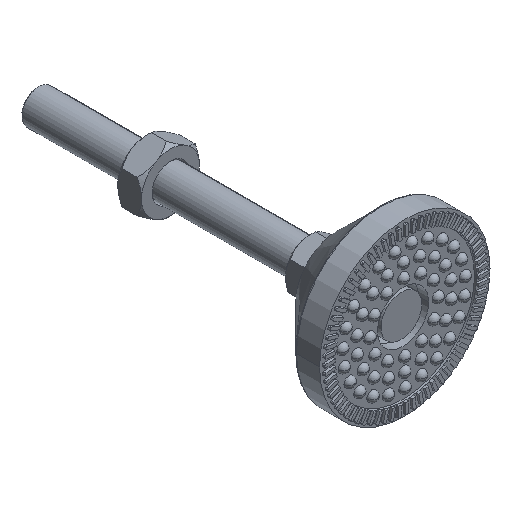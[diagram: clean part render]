
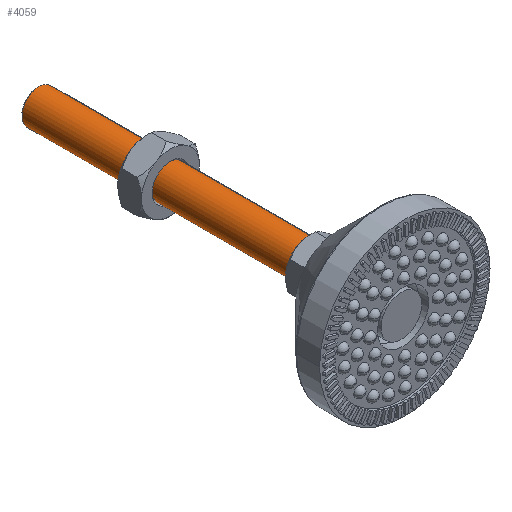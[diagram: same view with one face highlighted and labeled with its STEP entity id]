
A CAD part, isometric view. The second image highlights one B-rep face of the part: STEP entity #4059.
In plain terms, the highlighted cylindrical face has radius 5 mm (diameter 10 mm), a partial arc.
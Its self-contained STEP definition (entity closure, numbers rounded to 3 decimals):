
#12 = DIRECTION ( 'NONE',  ( -1., 0., 0. ) ) ;
#306 = CARTESIAN_POINT ( 'NONE',  ( -5., 0.809, 80. ) ) ;
#584 = CYLINDRICAL_SURFACE ( 'NONE', #20327, 5. ) ;
#975 = VERTEX_POINT ( 'NONE', #17935 ) ;
#1949 = EDGE_CURVE ( 'NONE', #4810, #10817, #7958, .T. ) ;
#2647 = CARTESIAN_POINT ( 'NONE',  ( -5., 0.809, 0.5 ) ) ;
#2706 = VERTEX_POINT ( 'NONE', #16571 ) ;
#4059 = ADVANCED_FACE ( 'NONE', ( #11445 ), #584, .T. ) ;
#4810 = VERTEX_POINT ( 'NONE', #2647 ) ;
#4831 = ORIENTED_EDGE ( 'NONE', *, *, #1949, .T. ) ;
#4834 = CIRCLE ( 'NONE', #18026, 5. ) ;
#5128 = CARTESIAN_POINT ( 'NONE',  ( 5., 0.809, 0.5 ) ) ;
#6789 = LINE ( 'NONE', #9121, #20178 ) ;
#6812 = DIRECTION ( 'NONE',  ( 0., 0., 1. ) ) ;
#6869 = CARTESIAN_POINT ( 'NONE',  ( 0., 0.809, 80. ) ) ;
#7346 = DIRECTION ( 'NONE',  ( 0., 0., -1. ) ) ;
#7383 = ORIENTED_EDGE ( 'NONE', *, *, #7827, .T. ) ;
#7408 = AXIS2_PLACEMENT_3D ( 'NONE', #17281, #6812, #19036 ) ;
#7827 = EDGE_CURVE ( 'NONE', #975, #2706, #4834, .T. ) ;
#7958 = CIRCLE ( 'NONE', #7408, 5. ) ;
#9121 = CARTESIAN_POINT ( 'NONE',  ( 5., 0.809, 80. ) ) ;
#10307 = CARTESIAN_POINT ( 'NONE',  ( 0., 0.809, 79.5 ) ) ;
#10392 = DIRECTION ( 'NONE',  ( 0., 0., -1. ) ) ;
#10817 = VERTEX_POINT ( 'NONE', #5128 ) ;
#11445 = FACE_OUTER_BOUND ( 'NONE', #18215, .T. ) ;
#12070 = DIRECTION ( 'NONE',  ( 1., 0., 0. ) ) ;
#15947 = DIRECTION ( 'NONE',  ( 0., 0., -1. ) ) ;
#15991 = EDGE_CURVE ( 'NONE', #2706, #4810, #20764, .T. ) ;
#16132 = VECTOR ( 'NONE', #15947, 1000. ) ;
#16571 = CARTESIAN_POINT ( 'NONE',  ( -5., 0.809, 79.5 ) ) ;
#17281 = CARTESIAN_POINT ( 'NONE',  ( 0., 0.809, 0.5 ) ) ;
#17935 = CARTESIAN_POINT ( 'NONE',  ( 5., 0.809, 79.5 ) ) ;
#18026 = AXIS2_PLACEMENT_3D ( 'NONE', #10307, #22484, #12070 ) ;
#18215 = EDGE_LOOP ( 'NONE', ( #20367, #7383, #20214, #4831 ) ) ;
#18829 = EDGE_CURVE ( 'NONE', #975, #10817, #6789, .T. ) ;
#19036 = DIRECTION ( 'NONE',  ( 1., 0., 0. ) ) ;
#20178 = VECTOR ( 'NONE', #7346, 1000. ) ;
#20214 = ORIENTED_EDGE ( 'NONE', *, *, #15991, .T. ) ;
#20327 = AXIS2_PLACEMENT_3D ( 'NONE', #6869, #10392, #12 ) ;
#20367 = ORIENTED_EDGE ( 'NONE', *, *, #18829, .F. ) ;
#20764 = LINE ( 'NONE', #306, #16132 ) ;
#22484 = DIRECTION ( 'NONE',  ( 0., 0., -1. ) ) ;
